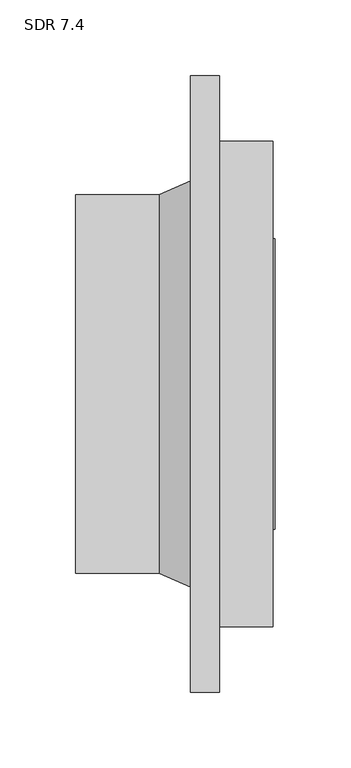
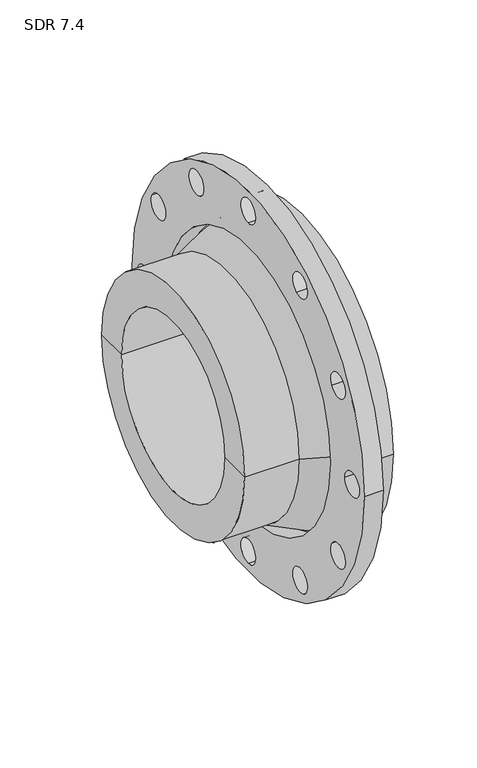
"""IFC4 building model written with IfcOpenShell, lengths in millimetres: valve geometry, Aquatherm - Flange Adapter Butt-Weld : SDR 7.4."""

import ifcopenshell
import ifcopenshell.guid

model = None  # the IFC model being written
_history = None  # IfcOwnerHistory: only IFC2X3 demands one
_inside = {}  # id of a spatial element -> (the spatial element, [elements in it])
_under = {}  # id of a project, library or spatial element -> (it, [spatial elements below it])
_declared = {}  # id of a project -> (the project, [libraries it declares])
_typed = {}  # id of a type object -> (the type object, [elements of that type])
_made_of = {}  # id of a material, layer set ... -> (it, [elements and type objects made of it])


def new_model(schema):
    """Start an empty IFC model of exactly this schema.

    Asked for "IFC4X3", IfcOpenShell would pick the latest addendum, in which some entities
    have other attributes; the version numbers below select the first issue.
    IFC2X3 requires an IfcOwnerHistory on every rooted entity: one is made here for all.
    """
    global model, _history
    if schema == "IFC4X3":
        model = ifcopenshell.file(schema_version=(4, 3, 0, 0))
    else:
        model = ifcopenshell.file(schema=schema)
    _inside.clear()
    _under.clear()
    _declared.clear()
    _typed.clear()
    _made_of.clear()
    _history = None
    if model.schema == "IFC2X3":
        org = make("IfcOrganization", Name="unknown")
        user = make(
            "IfcPersonAndOrganization",
            ThePerson=make("IfcPerson", FamilyName="unknown"),
            TheOrganization=org,
        )
        app = make(
            "IfcApplication",
            ApplicationDeveloper=org,
            Version="unknown",
            ApplicationFullName="unknown",
            ApplicationIdentifier="unknown",
        )
        _history = make(
            "IfcOwnerHistory",
            OwningUser=user,
            OwningApplication=app,
            ChangeAction="ADDED",
            CreationDate=0,
        )
    return model


def make(cls, **values):
    """One entity of the class cls with the attributes given. An attribute that is None is left unset."""
    return model.create_entity(
        cls, **{name: value for name, value in values.items() if value is not None}
    )


def rooted(cls, **values):
    """An entity with a GlobalId (a new one), such as an element, a storey or a relation."""
    return make(cls, GlobalId=ifcopenshell.guid.new(), OwnerHistory=_history, **values)


def si_unit(unit_type, name, prefix=None):
    """IfcSIUnit, for example si_unit("LENGTHUNIT", "METRE", prefix="MILLI")."""
    return make("IfcSIUnit", UnitType=unit_type, Prefix=prefix, Name=name)


def assignment(units):
    """IfcUnitAssignment: the units of a project."""
    return None if units is None else make("IfcUnitAssignment", Units=units)


def point(xyz):
    """IfcCartesianPoint."""
    return None if xyz is None else make("IfcCartesianPoint", Coordinates=xyz)


def direction(xyz):
    """IfcDirection."""
    return None if xyz is None else make("IfcDirection", DirectionRatios=xyz)


def frame(location, z_axis=None, x_axis=None):
    """IfcAxis2Placement3D, a coordinate frame: its origin and axes. An axis left out is left unset."""
    return make(
        "IfcAxis2Placement3D",
        Location=point(location),
        Axis=direction(z_axis),
        RefDirection=direction(x_axis),
    )


def frame_2d(location, x_axis=None):
    """IfcAxis2Placement2D, a coordinate frame in the plane: its origin and x axis."""
    return make(
        "IfcAxis2Placement2D", Location=point(location), RefDirection=direction(x_axis)
    )


def origin():
    """The frame at (0, 0, 0) with its axes left unset."""
    return frame((0.0, 0.0, 0.0))


def origin_2d():
    """The frame at (0, 0) in the plane with its x axis left unset."""
    return frame_2d((0.0, 0.0))


def place(relative_to, where):
    """IfcLocalPlacement: puts the frame where relative to a parent placement (None: the world)."""
    return make(
        "IfcLocalPlacement", PlacementRelTo=relative_to, RelativePlacement=where
    )


def context(
    kind, dimensions, precision=None, world=None, true_north=None, identifier=None
):
    """IfcGeometricRepresentationContext, for example the 3D "Model" context."""
    return make(
        "IfcGeometricRepresentationContext",
        ContextIdentifier=identifier,
        ContextType=kind,
        CoordinateSpaceDimension=dimensions,
        Precision=precision,
        WorldCoordinateSystem=world,
        TrueNorth=true_north,
    )


def project(units=None, contexts=None):
    """IfcProject with its units and contexts."""
    return rooted(
        "IfcProject",
        Name="project",
        RepresentationContexts=contexts,
        UnitsInContext=assignment(units),
    )


def spatial(cls, under=None, at=None, **own):
    """A site, building, storey or space (cls), placed at a placement, below another one or the project."""
    s = rooted(cls, ObjectPlacement=at, **own)
    if under is not None:
        _under.setdefault(under.id(), (under, []))[1].append(s)
    return s


def polyline(points):
    """IfcPolyline through the points."""
    return make("IfcPolyline", Points=[point(p) for p in points])


def circle_curve(where, radius):
    """IfcCircle in the frame where."""
    return make("IfcCircle", Position=where, Radius=radius)


def trimmed(basis, trim1, trim2, sense, master):
    """IfcTrimmedCurve: the piece of a basis curve between two trims."""
    return make(
        "IfcTrimmedCurve",
        BasisCurve=basis,
        Trim1=trim1,
        Trim2=trim2,
        SenseAgreement=sense,
        MasterRepresentation=master,
    )


def segment(curve, same_sense, transition):
    """IfcCompositeCurveSegment."""
    return make(
        "IfcCompositeCurveSegment",
        Transition=transition,
        SameSense=same_sense,
        ParentCurve=curve,
    )


def composite_curve(segments, self_intersect=None):
    """IfcCompositeCurve: segments joined end to end."""
    return make("IfcCompositeCurve", Segments=segments, SelfIntersect=self_intersect)


def outline(outer, holes=None, kind="AREA"):
    """IfcArbitraryClosedProfileDef: a profile drawn as a closed curve; with holes, ...WithVoids."""
    if holes is None:
        return make("IfcArbitraryClosedProfileDef", ProfileType=kind, OuterCurve=outer)
    return make(
        "IfcArbitraryProfileDefWithVoids",
        ProfileType=kind,
        OuterCurve=outer,
        InnerCurves=holes,
    )


def extrude(swept, where, along, depth):
    """IfcExtrudedAreaSolid: the profile swept, set in the frame where, extruded along a direction by depth."""
    return make(
        "IfcExtrudedAreaSolid",
        SweptArea=swept,
        Position=where,
        ExtrudedDirection=direction(along),
        Depth=depth,
    )


def shape(context_of_items, identifier, shape_type, items):
    """IfcShapeRepresentation: the items that make up one representation, for example the "Body"."""
    return make(
        "IfcShapeRepresentation",
        ContextOfItems=context_of_items,
        RepresentationIdentifier=identifier,
        RepresentationType=shape_type,
        Items=items,
    )


def source(mapping_origin, context_of_items, identifier, shape_type, items):
    """IfcRepresentationMap: a shape defined once, which mapped items show again and again."""
    return make(
        "IfcRepresentationMap",
        MappingOrigin=mapping_origin,
        MappedRepresentation=shape(context_of_items, identifier, shape_type, items),
    )


def transform(
    local_origin,
    x_axis=None,
    y_axis=None,
    z_axis=None,
    scale=None,
    scale2=None,
    scale3=None,
    uniform=True,
):
    """IfcCartesianTransformationOperator3D, or its non-uniform kind. x_axis, y_axis, z_axis: its Axis1, 2, 3."""
    if uniform:
        return make(
            "IfcCartesianTransformationOperator3D",
            Axis1=direction(x_axis),
            Axis2=direction(y_axis),
            LocalOrigin=point(local_origin),
            Scale=scale,
            Axis3=direction(z_axis),
        )
    return make(
        "IfcCartesianTransformationOperator3DnonUniform",
        Axis1=direction(x_axis),
        Axis2=direction(y_axis),
        LocalOrigin=point(local_origin),
        Scale=scale,
        Axis3=direction(z_axis),
        Scale2=scale2,
        Scale3=scale3,
    )


def mapped(mapping_source, mapping_target):
    """IfcMappedItem: shows the shape of a source again, moved by a transform."""
    return make(
        "IfcMappedItem", MappingSource=mapping_source, MappingTarget=mapping_target
    )


def made_of(thing, what):
    """Note that an element or type object is made of a material, layer set ...; save() writes the relation."""
    if what is not None:
        _made_of.setdefault(what.id(), (what, []))[1].append(thing)
    return thing


def element(
    cls,
    number,
    at=None,
    inside=None,
    cuts=None,
    type_object=None,
    material=None,
    context=None,
    identifier="Body",
    shape_type=None,
    held_by="IfcProductDefinitionShape",
    body=None,
    shapes=None,
    **own,
):
    """One element of the class cls, such as IfcWall. Its Tag is "e" and its number.

    at: its placement. inside: the storey or other place that contains it. cuts: it is an
    opening in that element (IfcRelVoidsElement). A single representation is given by context,
    identifier, shape_type and body (its items); several are given by shapes. held_by: the class
    of the entity that holds the representations. save() writes the other relations.
    """
    e = rooted(cls, Tag="e%d" % number, ObjectPlacement=at, **own)
    if body is not None:
        shapes = [shape(context, identifier, shape_type, body)]
    if shapes is not None:
        e.Representation = make(held_by, Representations=shapes)
    if inside is not None:
        _inside.setdefault(inside.id(), (inside, []))[1].append(e)
    if cuts is not None:
        rooted(
            "IfcRelVoidsElement", RelatingBuildingElement=cuts, RelatedOpeningElement=e
        )
    if type_object is not None:
        _typed.setdefault(type_object.id(), (type_object, []))[1].append(e)
    return made_of(e, material)


def aggregate(whole, parts):
    """IfcRelAggregates: a whole, such as a stair, and the parts it consists of."""
    return rooted("IfcRelAggregates", RelatingObject=whole, RelatedObjects=parts)


def save(model, path):
    """Write the relations noted so far, then the file.

    IfcRelAggregates (storeys below a building ...), IfcRelContainedInSpatialStructure (elements
    in a storey), IfcRelDefinesByType, IfcRelAssociatesMaterial and IfcRelDeclares: one each for
    every whole, place, type object, material and project.
    """
    for whole, parts in _under.values():
        aggregate(whole, parts)
    for where, things in _inside.values():
        rooted(
            "IfcRelContainedInSpatialStructure",
            RelatedElements=things,
            RelatingStructure=where,
        )
    for kind, things in _typed.values():
        rooted("IfcRelDefinesByType", RelatedObjects=things, RelatingType=kind)
    for what, things in _made_of.values():
        rooted("IfcRelAssociatesMaterial", RelatedObjects=things, RelatingMaterial=what)
    for by, libraries in _declared.values():
        rooted("IfcRelDeclares", RelatingContext=by, RelatedDefinitions=libraries)
    model.write(path)


def plane_surface(at):
    """IfcPlane: the flat surface through the origin of the frame at, square to its z axis."""
    return make("IfcPlane", Position=at)


def cylinder_surface(at, radius):
    """IfcCylindricalSurface: all points at the distance radius from the z axis of the frame at."""
    return make("IfcCylindricalSurface", Position=at, Radius=radius)


def revolved_surface(curve, axis_point, axis_direction):
    """IfcSurfaceOfRevolution: the curve turned about the line through axis_point along axis_direction."""
    return make(
        "IfcSurfaceOfRevolution",
        SweptCurve=make("IfcArbitraryOpenProfileDef", ProfileType="CURVE", Curve=curve),
        AxisPosition=make("IfcAxis1Placement", Location=point(axis_point), Axis=direction(axis_direction)),
    )


def advanced_brep(points, edges, surfaces, faces):
    """IfcAdvancedBrep: a solid bounded by faces that lie on surfaces and meet in shared edges.

    An edge is (start, end): straight between two places in points (the first is 0);
    or (start, end, curve); or (start, end, curve, False) where it runs against its curve.
    A face is (place in surfaces, loops), or (place, loops, False) where it looks against
    its surface's normal. A loop lists edges by number (the first is 1), with a minus sign
    where the edge is run from its end to its start. The first loop is the outer one.
    """
    corners = [point(p) for p in points]
    vertices = [make("IfcVertexPoint", VertexGeometry=c) for c in corners]
    made = []
    for start, end, *more in edges:
        made.append(
            make(
                "IfcEdgeCurve",
                EdgeStart=vertices[start],
                EdgeEnd=vertices[end],
                EdgeGeometry=more[0] if more else make("IfcPolyline", Points=[corners[start], corners[end]]),
                SameSense=more[1] if len(more) > 1 else True,
            )
        )
    hull = []
    for where, loops, *sense in faces:
        bounds = []
        for j, loop in enumerate(loops):
            ring = [make("IfcOrientedEdge", EdgeElement=made[abs(k) - 1], Orientation=k > 0) for k in loop]
            bounds.append(
                make(
                    "IfcFaceOuterBound" if j == 0 else "IfcFaceBound",
                    Bound=make("IfcEdgeLoop", EdgeList=ring),
                    Orientation=True,
                )
            )
        hull.append(make("IfcAdvancedFace", Bounds=bounds, FaceSurface=surfaces[where], SameSense=sense[0] if sense else True))
    return make("IfcAdvancedBrep", Outer=make("IfcClosedShell", CfsFaces=hull))


def sdr_7_4_1e6a08c6(model_context):
    return source(origin(), model_context, "Body", "SolidModel", [
        extrude(outline(composite_curve([segment(trimmed(circle_curve(origin_2d(), 203.2), [point((203.2, 0.0))], [point((-203.2, 0.0))], False, "CARTESIAN"), True, "CONTINUOUS"), segment(trimmed(circle_curve(origin_2d(), 203.2), [point((-203.2, 0.0))], [point((203.2, 0.0))], False, "CARTESIAN"), True, "CONTINUOUS")], self_intersect=False), holes=[composite_curve([segment(trimmed(circle_curve(origin_2d(), 143.51), [point((143.51, 0.0))], [point((-143.51, 0.0))], True, "CARTESIAN"), True, "CONTINUOUS"), segment(trimmed(circle_curve(origin_2d(), 143.51), [point((-143.51, 0.0))], [point((143.51, 0.0))], True, "CARTESIAN"), True, "CONTINUOUS")], self_intersect=False), composite_curve([segment(trimmed(circle_curve(frame_2d((-181.61, 0.0)), 12.7), [point((-168.91, 0.0))], [point((-194.31, 0.0))], True, "CARTESIAN"), True, "CONTINUOUS"), segment(trimmed(circle_curve(frame_2d((-181.61, 0.0)), 12.7), [point((-194.31, 0.0))], [point((-168.91, 0.0))], True, "CARTESIAN"), True, "CONTINUOUS")], self_intersect=False), composite_curve([segment(trimmed(circle_curve(frame_2d((-157.2788736, -90.805)), 12.7), [point((-146.280351, -84.455))], [point((-168.2773962, -97.155))], True, "CARTESIAN"), True, "CONTINUOUS"), segment(trimmed(circle_curve(frame_2d((-157.2788736, -90.805)), 12.7), [point((-168.2773962, -97.155))], [point((-146.280351, -84.455))], True, "CARTESIAN"), True, "CONTINUOUS")], self_intersect=False), composite_curve([segment(trimmed(circle_curve(frame_2d((-157.2788736, 90.805)), 12.7), [point((-146.280351, 84.455))], [point((-168.2773962, 97.155))], True, "CARTESIAN"), True, "CONTINUOUS"), segment(trimmed(circle_curve(frame_2d((-157.2788736, 90.805)), 12.7), [point((-168.2773962, 97.155))], [point((-146.280351, 84.455))], True, "CARTESIAN"), True, "CONTINUOUS")], self_intersect=False), composite_curve([segment(trimmed(circle_curve(frame_2d((-90.805, 157.2788736)), 12.7), [point((-84.455, 146.280351))], [point((-97.155, 168.2773962))], True, "CARTESIAN"), True, "CONTINUOUS"), segment(trimmed(circle_curve(frame_2d((-90.805, 157.2788736)), 12.7), [point((-97.155, 168.2773962))], [point((-84.455, 146.280351))], True, "CARTESIAN"), True, "CONTINUOUS")], self_intersect=False), composite_curve([segment(trimmed(circle_curve(frame_2d((0.0, 181.61)), 12.7), [point((0.0, 168.91))], [point((0.0, 194.31))], True, "CARTESIAN"), True, "CONTINUOUS"), segment(trimmed(circle_curve(frame_2d((0.0, 181.61)), 12.7), [point((0.0, 194.31))], [point((0.0, 168.91))], True, "CARTESIAN"), True, "CONTINUOUS")], self_intersect=False), composite_curve([segment(trimmed(circle_curve(frame_2d((90.805, 157.2788736)), 12.7), [point((84.455, 146.280351))], [point((97.155, 168.2773962))], True, "CARTESIAN"), True, "CONTINUOUS"), segment(trimmed(circle_curve(frame_2d((90.805, 157.2788736)), 12.7), [point((97.155, 168.2773962))], [point((84.455, 146.280351))], True, "CARTESIAN"), True, "CONTINUOUS")], self_intersect=False), composite_curve([segment(trimmed(circle_curve(frame_2d((157.2788736, 90.805)), 12.7), [point((146.280351, 84.455))], [point((168.2773962, 97.155))], True, "CARTESIAN"), True, "CONTINUOUS"), segment(trimmed(circle_curve(frame_2d((157.2788736, 90.805)), 12.7), [point((168.2773962, 97.155))], [point((146.280351, 84.455))], True, "CARTESIAN"), True, "CONTINUOUS")], self_intersect=False), composite_curve([segment(trimmed(circle_curve(frame_2d((181.61, 0.0)), 12.7), [point((168.91, 0.0))], [point((194.31, 0.0))], True, "CARTESIAN"), True, "CONTINUOUS"), segment(trimmed(circle_curve(frame_2d((181.61, 0.0)), 12.7), [point((194.31, 0.0))], [point((168.91, 0.0))], True, "CARTESIAN"), True, "CONTINUOUS")], self_intersect=False), composite_curve([segment(trimmed(circle_curve(frame_2d((157.2788736, -90.805)), 12.7), [point((146.280351, -84.455))], [point((168.2773962, -97.155))], True, "CARTESIAN"), True, "CONTINUOUS"), segment(trimmed(circle_curve(frame_2d((157.2788736, -90.805)), 12.7), [point((168.2773962, -97.155))], [point((146.280351, -84.455))], True, "CARTESIAN"), True, "CONTINUOUS")], self_intersect=False), composite_curve([segment(trimmed(circle_curve(frame_2d((90.805, -157.2788736)), 12.7), [point((84.455, -146.280351))], [point((97.155, -168.2773962))], True, "CARTESIAN"), True, "CONTINUOUS"), segment(trimmed(circle_curve(frame_2d((90.805, -157.2788736)), 12.7), [point((97.155, -168.2773962))], [point((84.455, -146.280351))], True, "CARTESIAN"), True, "CONTINUOUS")], self_intersect=False), composite_curve([segment(trimmed(circle_curve(frame_2d((0.0, -181.61)), 12.7), [point((0.0, -168.91))], [point((0.0, -194.31))], True, "CARTESIAN"), True, "CONTINUOUS"), segment(trimmed(circle_curve(frame_2d((0.0, -181.61)), 12.7), [point((0.0, -194.31))], [point((0.0, -168.91))], True, "CARTESIAN"), True, "CONTINUOUS")], self_intersect=False), composite_curve([segment(trimmed(circle_curve(frame_2d((-90.805, -157.2788736)), 12.7), [point((-84.455, -146.280351))], [point((-97.155, -168.2773962))], True, "CARTESIAN"), True, "CONTINUOUS"), segment(trimmed(circle_curve(frame_2d((-90.805, -157.2788736)), 12.7), [point((-97.155, -168.2773962))], [point((-84.455, -146.280351))], True, "CARTESIAN"), True, "CONTINUOUS")], self_intersect=False)]), frame((-19.05, 0.0, 0.0), z_axis=(1.0, 0.0, 0.0), x_axis=(0.0, 1.0, 0.0)), (0.0, 0.0, 1.0), 19.05),
        advanced_brep(
        [(35.052, -160.02, 0.0), (0.0, -160.02, 0.0), (0.0, 160.02, 0.0), (35.052, 160.02, 0.0), (36.6395, -90.678, 0.0), (36.6395, -95.758, 0.0), (36.6395, 95.758, 0.0), (36.6395, 90.678, 0.0), (-94.996, -90.678, 0.0), (-94.996, 90.678, 0.0), (-94.996, -124.968, 0.0), (-94.996, 124.968, 0.0), (-39.878, -124.968, 0.0), (-39.878, 124.968, 0.0), (0.0, -142.24, 0.0), (0.0, 142.24, 0.0), (35.052, -95.758, 0.0), (35.052, 95.758, 0.0)],
        [
            (0, 1),
            (1, 2, circle_curve(frame((0.0, 0.0, 0.0), z_axis=(1.0, 0.0, 0.0), x_axis=(0.0, 1.0, 0.0)), 160.02)),
            (2, 3),
            (3, 0, circle_curve(frame((35.052, 0.0, 0.0), z_axis=(-1.0, 0.0, 0.0), x_axis=(0.0, 1.0, 0.0)), 160.02)),
            (2, 1, circle_curve(frame((0.0, 0.0, 0.0), z_axis=(1.0, 0.0, 0.0), x_axis=(0.0, 1.0, 0.0)), 160.02)),
            (0, 3, circle_curve(frame((35.052, 0.0, 0.0), z_axis=(-1.0, 0.0, 0.0), x_axis=(0.0, 1.0, 0.0)), 160.02)),
            (4, 5),
            (5, 6, circle_curve(frame((36.6395, 0.0, 0.0), z_axis=(1.0, 0.0, 0.0), x_axis=(0.0, 1.0, 0.0)), 95.758)),
            (6, 7),
            (7, 4, circle_curve(frame((36.6395, 0.0, 0.0), z_axis=(-1.0, 0.0, 0.0), x_axis=(0.0, 1.0, 0.0)), 90.678)),
            (6, 5, circle_curve(frame((36.6395, 0.0, 0.0), z_axis=(1.0, 0.0, 0.0), x_axis=(0.0, 1.0, 0.0)), 95.758)),
            (4, 7, circle_curve(frame((36.6395, 0.0, 0.0), z_axis=(-1.0, 0.0, 0.0), x_axis=(0.0, 1.0, 0.0)), 90.678)),
            (8, 4),
            (7, 9),
            (9, 8, circle_curve(frame((-94.996, 0.0, 0.0), z_axis=(-1.0, 0.0, 0.0), x_axis=(0.0, 1.0, 0.0)), 90.678)),
            (8, 9, circle_curve(frame((-94.996, 0.0, 0.0), z_axis=(-1.0, 0.0, 0.0), x_axis=(0.0, 1.0, 0.0)), 90.678)),
            (10, 8),
            (9, 11),
            (11, 10, circle_curve(frame((-94.996, 0.0, 0.0), z_axis=(-1.0, 0.0, 0.0), x_axis=(0.0, 1.0, 0.0)), 124.968)),
            (10, 11, circle_curve(frame((-94.996, 0.0, 0.0), z_axis=(-1.0, 0.0, 0.0), x_axis=(0.0, 1.0, 0.0)), 124.968)),
            (12, 10),
            (11, 13),
            (13, 12, circle_curve(frame((-39.878, 0.0, 0.0), z_axis=(-1.0, 0.0, 0.0), x_axis=(0.0, 1.0, 0.0)), 124.968)),
            (12, 13, circle_curve(frame((-39.878, 0.0, 0.0), z_axis=(-1.0, 0.0, 0.0), x_axis=(0.0, 1.0, 0.0)), 124.968)),
            (1, 14),
            (14, 15, circle_curve(frame((0.0, 0.0, 0.0), z_axis=(1.0, 0.0, 0.0), x_axis=(0.0, 1.0, 0.0)), 142.24)),
            (15, 2),
            (15, 14, circle_curve(frame((0.0, 0.0, 0.0), z_axis=(1.0, 0.0, 0.0), x_axis=(0.0, 1.0, 0.0)), 142.24)),
            (16, 0),
            (3, 17),
            (17, 16, circle_curve(frame((35.052, 0.0, 0.0), z_axis=(-1.0, 0.0, 0.0), x_axis=(0.0, 1.0, 0.0)), 95.758)),
            (16, 17, circle_curve(frame((35.052, 0.0, 0.0), z_axis=(-1.0, 0.0, 0.0), x_axis=(0.0, 1.0, 0.0)), 95.758)),
            (5, 16),
            (17, 6),
            (14, 12),
            (13, 15),
        ],
        [
            cylinder_surface(frame((1475.6909321, 0.0, 0.0), z_axis=(1.0, 0.0, 0.0), x_axis=(0.0, 1.0, 0.0)), 160.02),
            plane_surface(frame((36.6395, 0.0, 0.0), z_axis=(1.0, 0.0, 0.0), x_axis=(0.0, 1.0, 0.0))),
            revolved_surface(polyline([(36.6395, 90.678, 0.0), (-94.9960000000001, 90.678, 0.0)]), (1475.6909321, 0.0, 0.0), (1.0, 0.0, 0.0)),
            plane_surface(frame((-94.996, 0.0, 0.0), z_axis=(-1.0, 0.0, 0.0), x_axis=(0.0, 1.0, 0.0))),
            cylinder_surface(frame((1475.6909321, 0.0, 0.0), z_axis=(1.0, 0.0, 0.0), x_axis=(0.0, 1.0, 0.0)), 124.968),
            plane_surface(frame((0.0, 0.0, 0.0), z_axis=(-1.0, 0.0, 0.0), x_axis=(0.0, 1.0, 0.0))),
            plane_surface(frame((35.052, 0.0, 0.0), z_axis=(1.0, 0.0, 0.0), x_axis=(0.0, 1.0, 0.0))),
            cylinder_surface(frame((1475.6909321, 0.0, 0.0), z_axis=(1.0, 0.0, 0.0), x_axis=(0.0, 1.0, 0.0)), 95.758),
            revolved_surface(polyline([(-39.878, 124.968, 0.0), (0.0, 142.24, 0.0)]), (1475.6909321, 0.0, 0.0), (1.0, 0.0, 0.0)),
        ],
        [
            (0, [[1, 2, 3, 4]]),
            (0, [[-3, 5, -1, 6]]),
            (1, [[7, 8, 9, 10]]),
            (1, [[-9, 11, -7, 12]]),
            (2, [[13, -10, 14, 15]]),
            (2, [[-14, -12, -13, 16]]),
            (3, [[17, -15, 18, 19]]),
            (3, [[-18, -16, -17, 20]]),
            (4, [[21, -19, 22, 23]]),
            (4, [[-22, -20, -21, 24]]),
            (5, [[25, 26, 27, -2]]),
            (5, [[-27, 28, -25, -5]]),
            (6, [[29, -4, 30, 31]]),
            (6, [[-30, -6, -29, 32]]),
            (7, [[33, -31, 34, -8]]),
            (7, [[-34, -32, -33, -11]]),
            (8, [[35, -23, 36, -26]]),
            (8, [[-36, -24, -35, -28]]),
        ],
    ),
    ])


if __name__ == "__main__":
    model = new_model("IFC4")
    model_context = context("Model", 3, world=origin())
    ifc_project = project(units=[si_unit("LENGTHUNIT", "METRE", prefix="MILLI")], contexts=[model_context])
    site = spatial("IfcSite", under=ifc_project)
    building = spatial("IfcBuilding", under=site)
    placement = place(None, origin())
    sdr_7_4_shape = sdr_7_4_1e6a08c6(model_context)
    element("IfcValve", 1, ObjectType="Aquatherm - Flange Adapter Butt-Weld : SDR 7.4", at=placement, inside=building, context=model_context, shape_type="MappedRepresentation", body=[
        mapped(sdr_7_4_shape, transform((0.0, 0.0, 0.0), x_axis=(1.0, 0.0, 0.0), y_axis=(0.0, 1.0, 0.0), z_axis=(0.0, 0.0, 1.0))),
    ])
    save(model, "model.ifc")
